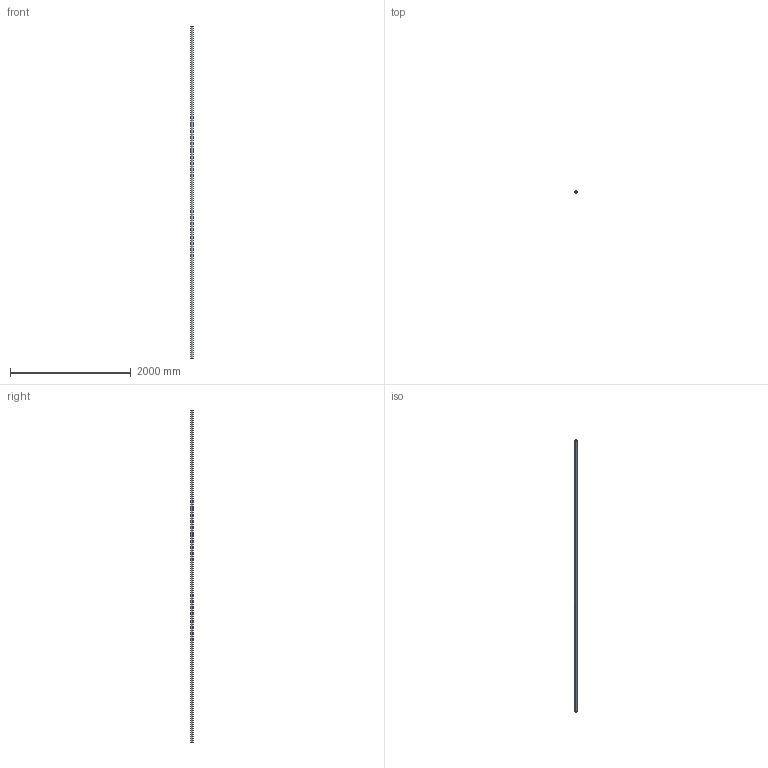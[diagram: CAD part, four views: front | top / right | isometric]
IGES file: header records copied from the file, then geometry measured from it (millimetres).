
Start section: SolidWorks IGES file using analytic representation for surfaces
Global section: file name: C:\Users\IanO\Desktop\L1771_v2\L1771.40_v2\L1771.40_v2_20230705_IGES\L1771.40-5500.igs; native system: SolidWorks 2019; preprocessor: SolidWorks 2019; author: IanO; date: 230705.163159; units: millimetre
Bounding box: 40 x 40 x 5500 mm (x, y, z)
Surface area: 1176237.4 mm2 (no closed solid volume)
Topology: 0 solids, 0 shells, 6 faces, 272 edges, 272 vertices
Faces by surface type: revolution 4, bspline 2
